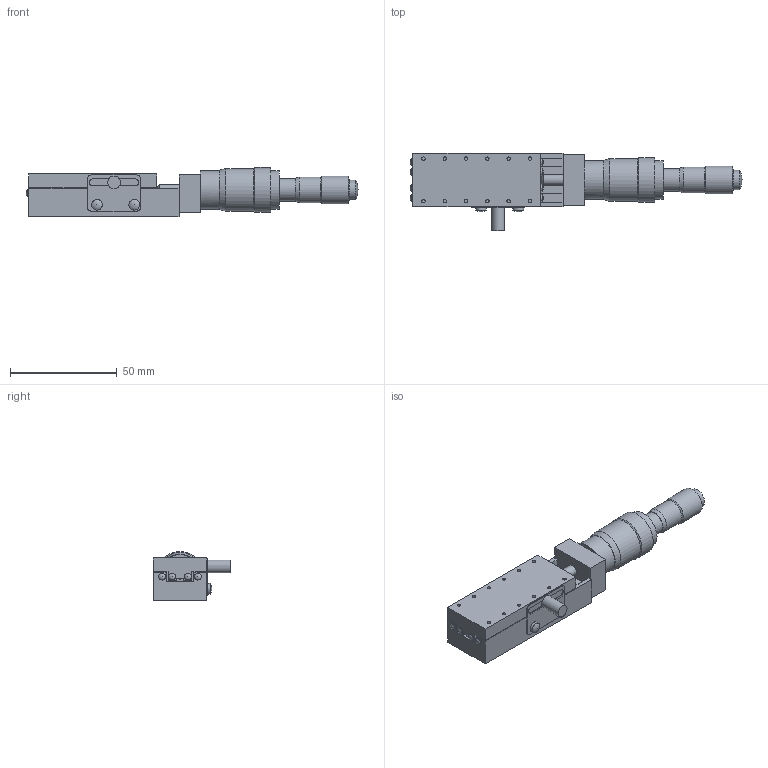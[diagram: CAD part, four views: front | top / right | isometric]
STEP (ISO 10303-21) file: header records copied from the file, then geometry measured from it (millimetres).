
FILE_DESCRIPTION( ( 'STEP AP214' ), '1' );
FILE_NAME( 'C:/Project/3D_B12-25BR-配布-070508.stp', '2007-05-08T10:42:33', ( ' ' ), ( ' ' ), 'XStep 1.0', ' ', ' ' );
FILE_SCHEMA( ( 'automotive_design' ) );
Length unit declared in the file: millimetre
Products named in the file (3): 1; 2; 3
Bounding box: 155.8 x 36.3 x 23 mm (x, y, z)
Volume: 50023.3 mm3; surface area: 21124.7 mm2
Topology: 3 solids, 3 shells, 129 faces, 344 edges, 228 vertices
Faces by surface type: cylinder 57, plane 55, sphere 12, cone 5
Full cylindrical faces by diameter (mm): 1.6 x24, 3 x1, 3.2 x8, 4.5 x2, 5 x4, 6 x1, 8 x2, 9 x1, 10.5 x2, 12 x1, 13 x1, 18 x2, 20 x1, 21 x1
Entity records: 4410 total; most frequent: DIRECTION 598, CARTESIAN_POINT 542, ORIENTED_EDGE 458, AXIS2_PLACEMENT_3D 237, EDGE_LOOP 236, EDGE_CURVE 229, VERTEX_POINT 181, FACE_OUTER_BOUND 180
